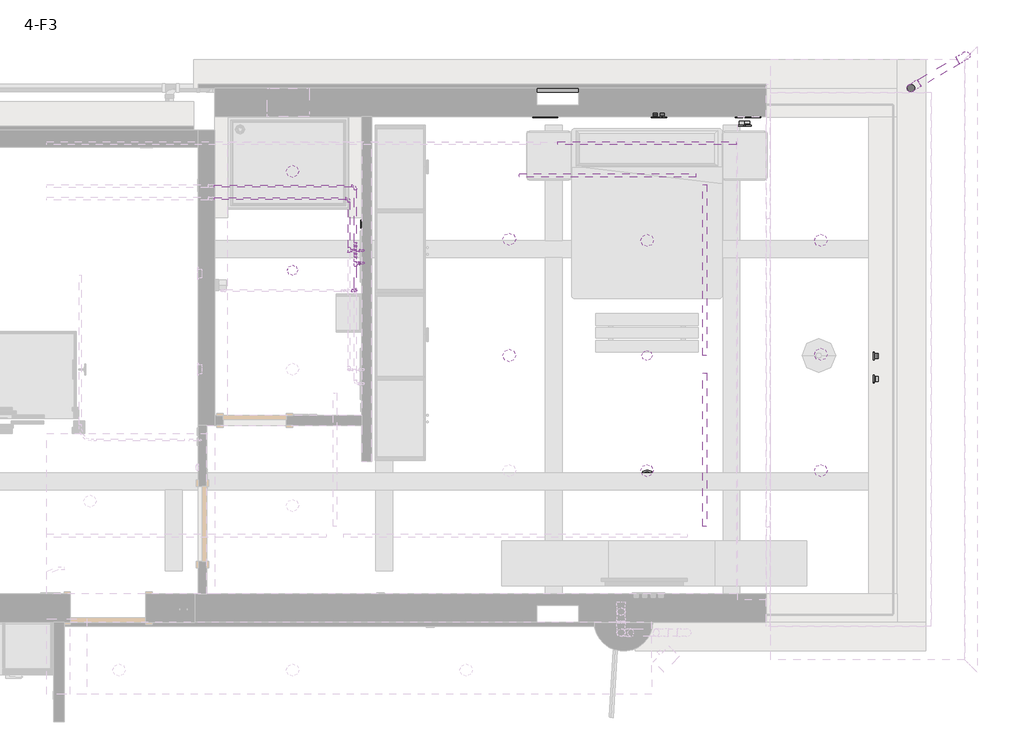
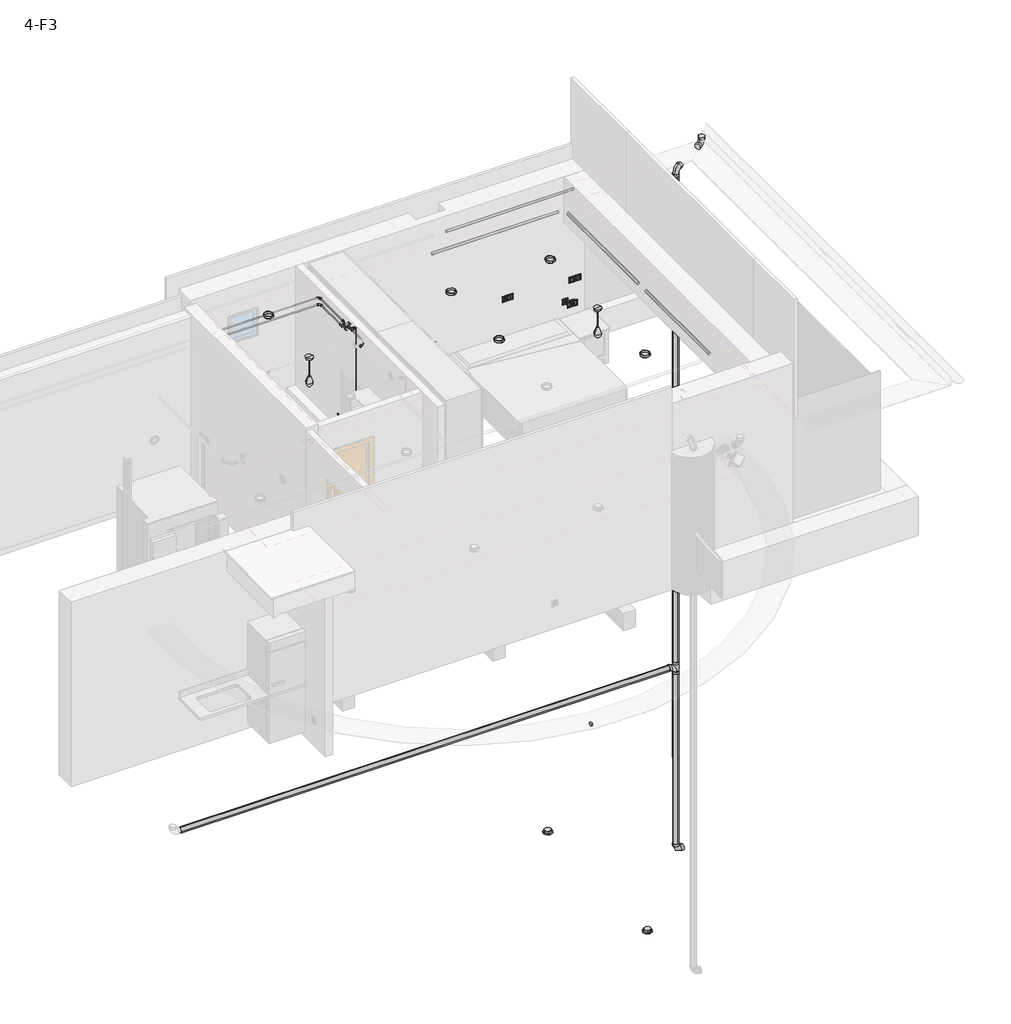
# One storey, part 11 of 11: 21 pipe segments, 20 pipe fittings, 12 light fixtures, 6 proxies, 5 electric appliances, 4 cable carrier segments, 4 switching devices.
"""IFC4 building model written with IfcOpenShell, lengths in millimetres."""

from ifc_helpers import new_model, si_unit, point, frame, frame_2d, origin, place, context, project, spatial, circle_curve, trimmed, segment, composite_curve, outline, extrude, transform, mapped, element, save
from components import wall_mounted_socket_ups_wall_mounted_socket_ups_4524048d, wall_mounted_data_socket_wall_mounted_data_socket_ap_474314e8, m_downlight_recessed_can_152mm_incandescent_120v_1ee42939, m_pendant_lamp_art_glass_led_standard_2036dae1, m_recessed_lamp_round_led_e6f06c98, m_recessed_lamp_round_led_ae0475c0, m_bend_pvc_sch_40_dwv_standard_738aab8b, m_bend_pvc_sch_40_dwv_standard_42e46e6b, m_bend_pvc_sch_40_dwv_standard_1be8e2f3, m_bend_pvc_sch_40_dwv_standard_0050fb47, m_bend_pvc_sch_40_dwv_standard_41353a0c, m_bend_pvc_sch_40_dwv_standard_6ee9e5fe, m_plug_pvc_sch_40_dwv_standard_f522da5e, m_tee_reducing_sanitary_pvc_sch_40_dwv_standard_53539b48, m_tee_reducing_sanitary_pvc_sch_40_dwv_standard_263bb960, m_tee_reducing_sanitary_pvc_sch_40_dwv_standard_152067bf, switching_device_8f59fbb7

model = new_model("IFC4")

# Units and contexts
model_context = context("Model", 3, world=origin())
ifc_project = project(units=[si_unit("LENGTHUNIT", "METRE", prefix="MILLI")], contexts=[model_context])

# Site, building, storey
site = spatial("IfcSite", under=ifc_project)
building = spatial("IfcBuilding", under=site)
storey = spatial("IfcBuildingStorey", under=building, Name="4-F3", Elevation=9900.0)

# Proxies
placement = place(None, origin())
wall_mounted_socket_ups_wall_mounted_socket_ups_shape = wall_mounted_socket_ups_wall_mounted_socket_ups_4524048d(model_context)
element("IfcBuildingElementProxy", 1, Name="WALL MOUNTED SOCKET UPS : WALL MOUNTED SOCKET UPS", ObjectType="WALL MOUNTED SOCKET UPS : WALL MOUNTED SOCKET UPS", at=placement, inside=storey, context=model_context, shape_type="MappedRepresentation", body=[
    mapped(wall_mounted_socket_ups_wall_mounted_socket_ups_shape, transform((3312.5234079, 8861.6620874, 10700.0), x_axis=(1.0, 0.0, 0.0), y_axis=(0.0, 0.0, 1.0), z_axis=(0.0, -1.0, 0.0))),
])
element("IfcBuildingElementProxy", 2, Name="WALL MOUNTED SOCKET UPS : WALL MOUNTED SOCKET UPS", ObjectType="WALL MOUNTED SOCKET UPS : WALL MOUNTED SOCKET UPS", at=placement, inside=storey, context=model_context, shape_type="MappedRepresentation", body=[
    mapped(wall_mounted_socket_ups_wall_mounted_socket_ups_shape, transform((5622.87749, 8861.6620874, 10700.0), x_axis=(1.0, 0.0, 0.0), y_axis=(0.0, 0.0, 1.0), z_axis=(0.0, -1.0, 0.0))),
])
element("IfcBuildingElementProxy", 3, Name="WALL MOUNTED SOCKET UPS : WALL MOUNTED SOCKET UPS", ObjectType="WALL MOUNTED SOCKET UPS : WALL MOUNTED SOCKET UPS", at=placement, inside=storey, context=model_context, shape_type="MappedRepresentation", body=[
    mapped(wall_mounted_socket_ups_wall_mounted_socket_ups_shape, transform((7235.5234079, 6006.4863231, 10350.0), x_axis=(0.0, -1.0, 0.0), y_axis=(0.0, 0.0, 1.0), z_axis=(-1.0, 0.0, 0.0))),
])
element("IfcBuildingElementProxy", 4, Name="WALL MOUNTED SOCKET UPS : WALL MOUNTED SOCKET UPS", ObjectType="WALL MOUNTED SOCKET UPS : WALL MOUNTED SOCKET UPS", at=placement, inside=storey, context=model_context, shape_type="MappedRepresentation", body=[
    mapped(wall_mounted_socket_ups_wall_mounted_socket_ups_shape, transform((4627.87749, 8861.6620874, 10350.0), x_axis=(1.0, 0.0, 0.0), y_axis=(0.0, 0.0, 1.0), z_axis=(0.0, -1.0, 0.0))),
])
element("IfcBuildingElementProxy", 5, Name="WALL MOUNTED SOCKET UPS : WALL MOUNTED SOCKET UPS", ObjectType="WALL MOUNTED SOCKET UPS : WALL MOUNTED SOCKET UPS", at=placement, inside=storey, context=model_context, shape_type="MappedRepresentation", body=[
    mapped(wall_mounted_socket_ups_wall_mounted_socket_ups_shape, transform((4622.5234079, 8861.6620874, 11100.0), x_axis=(1.0, 0.0, 0.0), y_axis=(0.0, 0.0, 1.0), z_axis=(0.0, -1.0, 0.0))),
])
element("IfcBuildingElementProxy", 6, Name="WALL MOUNTED SOCKET UPS : WALL MOUNTED SOCKET UPS", ObjectType="WALL MOUNTED SOCKET UPS : WALL MOUNTED SOCKET UPS", at=placement, inside=storey, context=model_context, shape_type="MappedRepresentation", body=[
    mapped(wall_mounted_socket_ups_wall_mounted_socket_ups_shape, transform((1122.5234079, 7582.5716599, 11002.6), x_axis=(0.0, -1.0, 0.0), y_axis=(0.0, 0.0, 1.0), z_axis=(-1.0, 0.0, 0.0))),
])

# Cable carrier segments
element("IfcCableCarrierSegment", 7, ObjectType="Low Current", at=placement, inside=storey, context=model_context, shape_type="SweptSolid", body=[
    extrude(outline(composite_curve([segment(trimmed(circle_curve(frame_2d((8549.2572999, 12880.825)), 19.175), [point((8568.4322999, 12880.825))], [point((8549.2572999, 12861.65))], False, "CARTESIAN"), True, "CONTINUOUS"), segment(trimmed(circle_curve(frame_2d((8549.2572999, 12880.825)), 19.175), [point((8549.2572999, 12861.65))], [point((8530.0822999, 12880.825))], False, "CARTESIAN"), True, "CONTINUOUS"), segment(trimmed(circle_curve(frame_2d((8549.2572999, 12880.825)), 19.175), [point((8530.0822999, 12880.825))], [point((8549.2572999, 12900.0))], False, "CARTESIAN"), True, "CONTINUOUS"), segment(trimmed(circle_curve(frame_2d((8549.2572999, 12880.825)), 19.175), [point((8549.2572999, 12900.0))], [point((8568.4322999, 12880.825))], False, "CARTESIAN"), True, "CONTINUOUS")], self_intersect=False)), frame((3462.7004489, 0.0, 0.0), z_axis=(1.0, 0.0, 0.0), x_axis=(0.0, 1.0, 0.0)), (0.0, 0.0, 1.0), 2125.0),
])
element("IfcCableCarrierSegment", 8, ObjectType="Power", at=placement, inside=storey, context=model_context, shape_type="SweptSolid", body=[
    extrude(outline(composite_curve([segment(trimmed(circle_curve(frame_2d((12880.825, 5214.42096)), 21.08), [point((12880.825, 5235.50096))], [point((12901.905, 5214.42096))], False, "CARTESIAN"), True, "CONTINUOUS"), segment(trimmed(circle_curve(frame_2d((12880.825, 5214.42096)), 21.08), [point((12901.905, 5214.42096))], [point((12880.825, 5193.34096))], False, "CARTESIAN"), True, "CONTINUOUS"), segment(trimmed(circle_curve(frame_2d((12880.825, 5214.42096)), 21.08), [point((12880.825, 5193.34096))], [point((12859.745, 5214.42096))], False, "CARTESIAN"), True, "CONTINUOUS"), segment(trimmed(circle_curve(frame_2d((12880.825, 5214.42096)), 21.08), [point((12859.745, 5214.42096))], [point((12880.825, 5235.50096))], False, "CARTESIAN"), True, "CONTINUOUS")], self_intersect=False)), frame((0.0, 6015.2234266, 0.0), z_axis=(0.0, 1.0, 0.0), x_axis=(0.0, 0.0, 1.0)), (0.0, 0.0, 1.0), 2040.9089166),
])
element("IfcCableCarrierSegment", 9, ObjectType="Power", at=placement, inside=storey, context=model_context, shape_type="SweptSolid", body=[
    extrude(outline(composite_curve([segment(trimmed(circle_curve(frame_2d((12880.825, 5214.42096)), 21.08), [point((12880.825, 5193.34096))], [point((12859.745, 5214.42096))], False, "CARTESIAN"), True, "CONTINUOUS"), segment(trimmed(circle_curve(frame_2d((12880.825, 5214.42096)), 21.08), [point((12859.745, 5214.42096))], [point((12880.825, 5235.50096))], False, "CARTESIAN"), True, "CONTINUOUS"), segment(trimmed(circle_curve(frame_2d((12880.825, 5214.42096)), 21.08), [point((12880.825, 5235.50096))], [point((12901.905, 5214.42096))], False, "CARTESIAN"), True, "CONTINUOUS"), segment(trimmed(circle_curve(frame_2d((12880.825, 5214.42096)), 21.08), [point((12901.905, 5214.42096))], [point((12880.825, 5193.34096))], False, "CARTESIAN"), True, "CONTINUOUS")], self_intersect=False)), frame((0.0, 3971.4863231, 0.0), z_axis=(0.0, 1.0, 0.0), x_axis=(0.0, 0.0, 1.0)), (0.0, 0.0, 1.0), 1833.7371035),
])
element("IfcCableCarrierSegment", 10, ObjectType="Power", at=placement, inside=storey, context=model_context, shape_type="SweptSolid", body=[
    extrude(outline(composite_curve([segment(trimmed(circle_curve(frame_2d((8161.1323432, 12880.825)), 21.08), [point((8140.0523432, 12880.825))], [point((8161.1323432, 12901.905))], False, "CARTESIAN"), True, "CONTINUOUS"), segment(trimmed(circle_curve(frame_2d((8161.1323432, 12880.825)), 21.08), [point((8161.1323432, 12901.905))], [point((8182.2123432, 12880.825))], False, "CARTESIAN"), True, "CONTINUOUS"), segment(trimmed(circle_curve(frame_2d((8161.1323432, 12880.825)), 21.08), [point((8182.2123432, 12880.825))], [point((8161.1323432, 12859.745))], False, "CARTESIAN"), True, "CONTINUOUS"), segment(trimmed(circle_curve(frame_2d((8161.1323432, 12880.825)), 21.08), [point((8161.1323432, 12859.745))], [point((8140.0523432, 12880.825))], False, "CARTESIAN"), True, "CONTINUOUS")], self_intersect=False)), frame((3001.3088898, 0.0, 0.0), z_axis=(1.0, 0.0, 0.0), x_axis=(0.0, 1.0, 0.0)), (0.0, 0.0, 1.0), 2108.1120702),
])

# Electric appliances
wall_mounted_data_socket_wall_mounted_data_socket_ap_shape = wall_mounted_data_socket_wall_mounted_data_socket_ap_474314e8(model_context)
element("IfcElectricAppliance", 11, ObjectType="WALL MOUNTED DATA SOCKET : WALL MOUNTED DATA SOCKET AP", at=placement, inside=storey, context=model_context, shape_type="MappedRepresentation", body=[
    mapped(wall_mounted_data_socket_wall_mounted_data_socket_ap_shape, transform((7235.5234079, 5734.4560655, 10350.0), x_axis=(0.0, -1.0, 0.0), y_axis=(0.0, 0.0, 1.0), z_axis=(-1.0, 0.0, 0.0))),
])
element("IfcElectricAppliance", 12, ObjectType="WALL MOUNTED DATA SOCKET : WALL MOUNTED DATA SOCKET AP", at=placement, inside=storey, context=model_context, shape_type="MappedRepresentation", body=[
    mapped(wall_mounted_data_socket_wall_mounted_data_socket_ap_shape, transform((5722.87749, 8761.6620874, 10700.0), x_axis=(1.0, 0.0, 0.0), y_axis=(0.0, 0.0, 1.0), z_axis=(0.0, -1.0, 0.0))),
])
element("IfcElectricAppliance", 13, ObjectType="WALL MOUNTED DATA SOCKET : WALL MOUNTED DATA SOCKET AP", at=placement, inside=storey, context=model_context, shape_type="MappedRepresentation", body=[
    mapped(wall_mounted_data_socket_wall_mounted_data_socket_ap_shape, transform((3212.5234079, 8861.6620874, 10700.0), x_axis=(1.0, 0.0, 0.0), y_axis=(0.0, 0.0, 1.0), z_axis=(0.0, -1.0, 0.0))),
])
element("IfcElectricAppliance", 14, ObjectType="WALL MOUNTED DATA SOCKET : WALL MOUNTED DATA SOCKET AP", at=placement, inside=storey, context=model_context, shape_type="MappedRepresentation", body=[
    mapped(wall_mounted_data_socket_wall_mounted_data_socket_ap_shape, transform((4707.87749, 8861.6620874, 11100.0), x_axis=(1.0, 0.0, 0.0), y_axis=(0.0, 0.0, 1.0), z_axis=(0.0, -1.0, 0.0))),
])
element("IfcElectricAppliance", 15, ObjectType="WALL MOUNTED DATA SOCKET : WALL MOUNTED DATA SOCKET AP", at=placement, inside=storey, context=model_context, shape_type="MappedRepresentation", body=[
    mapped(wall_mounted_data_socket_wall_mounted_data_socket_ap_shape, transform((4712.87749, 8861.6620874, 10350.0), x_axis=(1.0, 0.0, 0.0), y_axis=(0.0, 0.0, 1.0), z_axis=(0.0, -1.0, 0.0))),
])

# Light fixtures
m_downlight_recessed_can_152mm_incandescent_120v_shape = m_downlight_recessed_can_152mm_incandescent_120v_1ee42939(model_context)
element("IfcLightFixture", 16, ObjectType="M_Downlight - Recessed Can : 203mm Incandescent - 277V", at=placement, inside=storey, context=model_context, shape_type="MappedRepresentation", body=[
    mapped(m_downlight_recessed_can_152mm_incandescent_120v_shape, transform((6599.2004488, 7387.4708382, 9685.4), x_axis=(1.0, 0.0, 0.0), y_axis=(0.0, 1.0, 0.0), z_axis=(0.0, 0.0, 1.0))),
])
element("IfcLightFixture", 17, ObjectType="M_Downlight - Recessed Can : 203mm Incandescent - 277V", at=placement, inside=storey, context=model_context, shape_type="MappedRepresentation", body=[
    mapped(m_downlight_recessed_can_152mm_incandescent_120v_shape, transform((6599.2004488, 4639.8354313, 9685.4), x_axis=(1.0, 0.0, 0.0), y_axis=(0.0, 1.0, 0.0), z_axis=(0.0, 0.0, 1.0))),
])
element("IfcLightFixture", 18, ObjectType="M_Downlight - Recessed Can : 203mm Incandescent - 277V", at=placement, inside=storey, context=model_context, shape_type="MappedRepresentation", body=[
    mapped(m_downlight_recessed_can_152mm_incandescent_120v_shape, transform((6599.2004488, 6027.4708382, 9685.4), x_axis=(1.0, 0.0, 0.0), y_axis=(0.0, 1.0, 0.0), z_axis=(0.0, 0.0, 1.0))),
])
element("IfcLightFixture", 19, ObjectType="M_Downlight - Recessed Can : 203mm Incandescent - 277V", at=placement, inside=storey, context=model_context, shape_type="MappedRepresentation", body=[
    mapped(m_downlight_recessed_can_152mm_incandescent_120v_shape, transform((297.5234079, 8211.6620874, 10185.4), x_axis=(1.0, 0.0, 0.0), y_axis=(0.0, 1.0, 0.0), z_axis=(0.0, 0.0, 1.0))),
])
element("IfcLightFixture", 20, ObjectType="M_Downlight - Recessed Can : 203mm Incandescent - 277V", at=placement, inside=storey, context=model_context, shape_type="MappedRepresentation", body=[
    mapped(m_downlight_recessed_can_152mm_incandescent_120v_shape, transform((2882.5234079, 7401.6620874, 10185.4), x_axis=(1.0, 0.0, 0.0), y_axis=(0.0, 1.0, 0.0), z_axis=(0.0, 0.0, 1.0))),
])
element("IfcLightFixture", 21, ObjectType="M_Downlight - Recessed Can : 203mm Incandescent - 277V", at=placement, inside=storey, context=model_context, shape_type="MappedRepresentation", body=[
    mapped(m_downlight_recessed_can_152mm_incandescent_120v_shape, transform((4527.8774898, 7387.4708382, 10185.4), x_axis=(1.0, 0.0, 0.0), y_axis=(0.0, 1.0, 0.0), z_axis=(0.0, 0.0, 1.0))),
])
element("IfcLightFixture", 22, ObjectType="M_Downlight - Recessed Can : 203mm Incandescent - 277V", at=placement, inside=storey, context=model_context, shape_type="MappedRepresentation", body=[
    mapped(m_downlight_recessed_can_152mm_incandescent_120v_shape, transform((2882.5234079, 6013.8093331, 10185.4), x_axis=(1.0, 0.0, 0.0), y_axis=(0.0, 1.0, 0.0), z_axis=(0.0, 0.0, 1.0))),
])
element("IfcLightFixture", 23, ObjectType="M_Downlight - Recessed Can : 203mm Incandescent - 277V", at=placement, inside=storey, context=model_context, shape_type="MappedRepresentation", body=[
    mapped(m_downlight_recessed_can_152mm_incandescent_120v_shape, transform((4525.2004489, 4640.1478281, 10185.4), x_axis=(1.0, 0.0, 0.0), y_axis=(0.0, 1.0, 0.0), z_axis=(0.0, 0.0, 1.0))),
])
m_pendant_lamp_art_glass_led_standard_shape = m_pendant_lamp_art_glass_led_standard_2036dae1(model_context)
element("IfcLightFixture", 24, ObjectType="M_Pendant Lamp - Art Glass - LED : Standard", at=placement, inside=storey, context=model_context, shape_type="MappedRepresentation", body=[
    mapped(m_pendant_lamp_art_glass_led_standard_shape, transform((4526.1133899, 6013.8093331, 12700.0), x_axis=(1.0, 0.0, 0.0), y_axis=(0.0, -1.0, 0.0), z_axis=(0.0, 0.0, -1.0))),
])
element("IfcLightFixture", 25, ObjectType="M_Pendant Lamp - Art Glass - LED : Standard", at=placement, inside=storey, context=model_context, shape_type="MappedRepresentation", body=[
    mapped(m_pendant_lamp_art_glass_led_standard_shape, transform((298.4363488, 7030.7487593, 12700.0), x_axis=(1.0, 0.0, 0.0), y_axis=(0.0, -1.0, 0.0), z_axis=(0.0, 0.0, -1.0))),
])
m_recessed_lamp_round_led_shape = m_recessed_lamp_round_led_e6f06c98(model_context)
element("IfcLightFixture", 26, ObjectType="M_Recessed Lamp - Round - LED : 100mm Trimless Downlight", at=placement, inside=storey, context=model_context, shape_type="MappedRepresentation", body=[
    mapped(m_recessed_lamp_round_led_shape, transform((4528.1894212, 7459.6229895, 2573.0), x_axis=(1.0, 0.0, 0.0), y_axis=(0.0, -1.0, 0.0), z_axis=(0.0, 0.0, -1.0))),
])
m_recessed_lamp_round_led_2_shape = m_recessed_lamp_round_led_ae0475c0(model_context)
element("IfcLightFixture", 27, ObjectType="M_Recessed Lamp - Round - LED : 100mm Trimless Downlight", at=placement, inside=storey, context=model_context, shape_type="MappedRepresentation", body=[
    mapped(m_recessed_lamp_round_led_2_shape, transform((4528.1894212, 4577.445533, 2573.0), x_axis=(1.0, 0.0, 0.0), y_axis=(0.0, -1.0, 0.0), z_axis=(0.0, 0.0, -1.0))),
])

# Pipe fittings
m_bend_pvc_sch_40_dwv_standard_shape = m_bend_pvc_sch_40_dwv_standard_738aab8b(model_context)
element("IfcPipeFitting", 28, ObjectType="M_Bend - PVC - Sch 40 - DWV : Standard", at=placement, inside=storey, context=model_context, shape_type="MappedRepresentation", body=[
    mapped(m_bend_pvc_sch_40_dwv_standard_shape, transform((1182.5234079, 8931.6620874, 10050.0), x_axis=(0.0, 1.0, 0.0), y_axis=(-1.0, 0.0, 0.0), z_axis=(0.0, 0.0, 1.0))),
])
element("IfcPipeFitting", 29, ObjectType="M_Bend - PVC - Sch 40 - DWV : Standard", at=placement, inside=storey, context=model_context, shape_type="MappedRepresentation", body=[
    mapped(m_bend_pvc_sch_40_dwv_standard_shape, transform((1182.5234079, 7183.2487593, 10651.5), x_axis=(0.0, 0.0, 1.0), y_axis=(-1.0, 0.0, 0.0), z_axis=(0.0, -1.0, 0.0))),
])
m_bend_pvc_sch_40_dwv_standard_2_shape = m_bend_pvc_sch_40_dwv_standard_42e46e6b(model_context)
element("IfcPipeFitting", 30, ObjectType="M_Bend - PVC - Sch 40 - DWV : Standard", at=placement, inside=storey, context=model_context, shape_type="MappedRepresentation", body=[
    mapped(m_bend_pvc_sch_40_dwv_standard_2_shape, transform((972.5234079, 7886.6620874, 12870.0), x_axis=(0.0, 1.0, 0.0), y_axis=(-1.0, 0.0, 0.0), z_axis=(0.0, 0.0, 1.0))),
])
element("IfcPipeFitting", 31, ObjectType="M_Bend - PVC - Sch 40 - DWV : Standard", at=placement, inside=storey, context=model_context, shape_type="MappedRepresentation", body=[
    mapped(m_bend_pvc_sch_40_dwv_standard_2_shape, transform((1135.0234079, 7265.7487593, 12870.0), x_axis=(1.0, 0.0, 0.0), y_axis=(0.0, 0.0, -1.0), z_axis=(0.0, 1.0, 0.0))),
])
element("IfcPipeFitting", 32, ObjectType="M_Bend - PVC - Sch 40 - DWV : Standard", at=placement, inside=storey, context=model_context, shape_type="MappedRepresentation", body=[
    mapped(m_bend_pvc_sch_40_dwv_standard_2_shape, transform((1047.5234079, 8036.6620874, 12870.0), x_axis=(0.0, 1.0, 0.0), y_axis=(-1.0, 0.0, 0.0), z_axis=(0.0, 0.0, 1.0))),
])
element("IfcPipeFitting", 33, ObjectType="M_Bend - PVC - Sch 40 - DWV : Standard", at=placement, inside=storey, context=model_context, shape_type="MappedRepresentation", body=[
    mapped(m_bend_pvc_sch_40_dwv_standard_2_shape, transform((1137.5234079, 7115.7487593, 10350.0), x_axis=(0.0, 0.0, -1.0), y_axis=(-1.0, 0.0, 0.0), z_axis=(0.0, 1.0, 0.0))),
])
element("IfcPipeFitting", 34, ObjectType="M_Bend - PVC - Sch 40 - DWV : Standard", at=placement, inside=storey, context=model_context, shape_type="MappedRepresentation", body=[
    mapped(m_bend_pvc_sch_40_dwv_standard_2_shape, transform((1047.5234079, 7320.1761499, 12870.0), x_axis=(0.0, -1.0, 0.0), y_axis=(0.0, 0.0, -1.0), z_axis=(1.0, 0.0, 0.0))),
])
element("IfcPipeFitting", 35, ObjectType="M_Bend - PVC - Sch 40 - DWV : Standard", at=placement, inside=storey, context=model_context, shape_type="MappedRepresentation", body=[
    mapped(m_bend_pvc_sch_40_dwv_standard_2_shape, transform((1047.5234079, 7320.1761499, 12780.0), x_axis=(0.0, 0.0, -1.0), y_axis=(0.0, -1.0, 0.0), z_axis=(-1.0, 0.0, 0.0))),
])
element("IfcPipeFitting", 36, ObjectType="M_Bend - PVC - Sch 40 - DWV : Standard", at=placement, inside=storey, context=model_context, shape_type="MappedRepresentation", body=[
    mapped(m_bend_pvc_sch_40_dwv_standard_2_shape, transform((1047.5234079, 7227.6761499, 12780.0), x_axis=(0.0, -1.0, 0.0), y_axis=(0.0, 0.0, 1.0), z_axis=(-1.0, 0.0, 0.0))),
])
element("IfcPipeFitting", 37, ObjectType="M_Bend - PVC - Sch 40 - DWV : Standard", at=placement, inside=storey, context=model_context, shape_type="MappedRepresentation", body=[
    mapped(m_bend_pvc_sch_40_dwv_standard_2_shape, transform((1047.5234079, 7227.6761499, 12870.0), x_axis=(0.0, 0.0, 1.0), y_axis=(0.0, -1.0, 0.0), z_axis=(1.0, 0.0, 0.0))),
])
element("IfcPipeFitting", 38, ObjectType="M_Bend - PVC - Sch 40 - DWV : Standard", at=placement, inside=storey, context=model_context, shape_type="MappedRepresentation", body=[
    mapped(m_bend_pvc_sch_40_dwv_standard_2_shape, transform((1047.5234079, 6788.3845932, 12780.0), x_axis=(0.0, 0.0, -1.0), y_axis=(-1.0, 0.0, 0.0), z_axis=(0.0, 1.0, 0.0))),
])
m_bend_pvc_sch_40_dwv_standard_3_shape = m_bend_pvc_sch_40_dwv_standard_1be8e2f3(model_context)
element("IfcPipeFitting", 39, ObjectType="M_Bend - PVC - Sch 40 - DWV : Standard", at=placement, inside=storey, context=model_context, shape_type="MappedRepresentation", body=[
    mapped(m_bend_pvc_sch_40_dwv_standard_3_shape, transform((7673.7257941, 9205.2307147, 12114.1007258), x_axis=(-1.4652502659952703e-05, -1.465250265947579e-05, 0.9999999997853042), y_axis=(0.8608481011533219, 0.5088620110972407, 2.0069681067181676e-05), z_axis=(-0.5088620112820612, 0.8608481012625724, 5.157477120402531e-06))),
])
m_bend_pvc_sch_40_dwv_standard_4_shape = m_bend_pvc_sch_40_dwv_standard_0050fb47(model_context)
element("IfcPipeFitting", 40, ObjectType="M_Bend - PVC - Sch 40 - DWV : Standard", at=placement, inside=storey, context=model_context, shape_type="MappedRepresentation", body=[
    mapped(m_bend_pvc_sch_40_dwv_standard_4_shape, transform((8330.5819101, 9593.5103025, 12114.1003369), x_axis=(0.8608476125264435, 0.508862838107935, -5.097531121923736e-07), y_axis=(4.3881974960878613e-07, 2.5939441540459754e-07, 0.9999999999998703), z_axis=(0.5088628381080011, -0.8608476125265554, 0.0))),
])
m_bend_pvc_sch_40_dwv_standard_5_shape = m_bend_pvc_sch_40_dwv_standard_41353a0c(model_context)
element("IfcPipeFitting", 41, ObjectType="M_Bend - PVC - Sch 40 - DWV : Standard", at=placement, inside=storey, context=model_context, shape_type="MappedRepresentation", body=[
    mapped(m_bend_pvc_sch_40_dwv_standard_5_shape, transform((7673.9018307, 9205.4067513, 100.0005114), x_axis=(1.4652502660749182e-05, 1.4652502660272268e-05, -0.9999999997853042), y_axis=(0.9953425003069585, 0.09640179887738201, 1.5996786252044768e-05), z_axis=(0.0964017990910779, -0.9953425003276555, -1.3171731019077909e-05))),
])
m_bend_pvc_sch_40_dwv_standard_6_shape = m_bend_pvc_sch_40_dwv_standard_6ee9e5fe(model_context)
element("IfcPipeFitting", 42, ObjectType="M_Bend - PVC - Sch 40 - DWV : Standard", at=placement, inside=storey, context=model_context, shape_type="MappedRepresentation", body=[
    mapped(m_bend_pvc_sch_40_dwv_standard_6_shape, transform((1137.5234079, 7115.7487593, 12870.0013214), x_axis=(0.0, 0.0, 1.0), y_axis=(-1.0, 0.0, 0.0), z_axis=(0.0, -1.0, 0.0))),
])
m_plug_pvc_sch_40_dwv_standard_shape = m_plug_pvc_sch_40_dwv_standard_f522da5e(model_context)
element("IfcPipeFitting", 43, ObjectType="M_Plug - PVC - Sch 40 - DWV : Standard", at=placement, inside=storey, context=model_context, shape_type="MappedRepresentation", body=[
    mapped(m_plug_pvc_sch_40_dwv_standard_shape, transform((6253.1565793, 9222.0326065, 2800.0), x_axis=(1.0, 0.0, 0.0), y_axis=(0.0, 0.0, 1.0), z_axis=(0.0, -1.0, 0.0))),
])
m_tee_reducing_sanitary_pvc_sch_40_dwv_standard_shape = m_tee_reducing_sanitary_pvc_sch_40_dwv_standard_53539b48(model_context)
element("IfcPipeFitting", 44, ObjectType="M_Tee Reducing Sanitary - PVC - Sch 40 - DWV : Standard", at=placement, inside=storey, context=model_context, shape_type="MappedRepresentation", body=[
    mapped(m_tee_reducing_sanitary_pvc_sch_40_dwv_standard_shape, transform((1047.5234079, 7115.7487593, 12870.0), x_axis=(0.0, 1.0, 0.0), y_axis=(-0.9999999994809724, 0.0, -3.2218865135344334e-05), z_axis=(-3.2218865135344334e-05, 0.0, 0.9999999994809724))),
])
element("IfcPipeFitting", 45, ObjectType="M_Tee Reducing Sanitary - PVC - Sch 40 - DWV : Standard", at=placement, inside=storey, context=model_context, shape_type="MappedRepresentation", body=[
    mapped(m_tee_reducing_sanitary_pvc_sch_40_dwv_standard_shape, transform((972.5234079, 7265.7487593, 12870.0), x_axis=(0.0, -1.0, 0.0), y_axis=(-1.0, 0.0, 0.0), z_axis=(0.0, 0.0, -1.0))),
])
m_tee_reducing_sanitary_pvc_sch_40_dwv_standard_2_shape = m_tee_reducing_sanitary_pvc_sch_40_dwv_standard_263bb960(model_context)
element("IfcPipeFitting", 46, ObjectType="M_Tee Reducing Sanitary - PVC - Sch 40 - DWV : Standard", at=placement, inside=storey, context=model_context, shape_type="MappedRepresentation", body=[
    mapped(m_tee_reducing_sanitary_pvc_sch_40_dwv_standard_2_shape, transform((7673.862269, 9205.3671896, 3340.0), x_axis=(-1.4652502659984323e-05, -1.4652502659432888e-05, 0.9999999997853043), y_axis=(0.999999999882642, -4.474654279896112e-06, 1.4652437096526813e-05), z_axis=(4.474439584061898e-06, 0.9999999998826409, 1.4652568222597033e-05))),
])
m_tee_reducing_sanitary_pvc_sch_40_dwv_standard_3_shape = m_tee_reducing_sanitary_pvc_sch_40_dwv_standard_152067bf(model_context)
element("IfcPipeFitting", 47, ObjectType="M_Tee Reducing Sanitary - PVC - Sch 40 - DWV : Standard", at=placement, inside=storey, context=model_context, shape_type="MappedRepresentation", body=[
    mapped(m_tee_reducing_sanitary_pvc_sch_40_dwv_standard_3_shape, transform((1182.5234079, 7183.2487593, 10050.0), x_axis=(0.0, -1.0, 0.0), y_axis=(0.0, 0.0, -1.0), z_axis=(1.0, 0.0, 0.0))),
])

# Pipe segments
element("IfcPipeSegment", 48, ObjectType="PVC - DWV", at=placement, inside=storey, context=model_context, shape_type="SweptSolid", body=[
    extrude(outline(composite_curve([segment(trimmed(circle_curve(frame_2d((0.0, 44.45)), 44.45), [point((44.45, 44.45))], [point((0.0, 0.0))], False, "CARTESIAN"), True, "CONTINUOUS"), segment(trimmed(circle_curve(frame_2d((0.0, 44.45)), 44.45), [point((0.0, 0.0))], [point((-44.45, 44.45))], False, "CARTESIAN"), True, "CONTINUOUS"), segment(trimmed(circle_curve(frame_2d((0.0, 44.45)), 44.45), [point((-44.45, 44.45))], [point((0.0, 88.9))], False, "CARTESIAN"), True, "CONTINUOUS"), segment(trimmed(circle_curve(frame_2d((0.0, 44.45)), 44.45), [point((0.0, 88.9))], [point((44.45, 44.45))], False, "CARTESIAN"), True, "CONTINUOUS")], self_intersect=False)), frame((7773.4982612, 9264.2079236, 12158.5506667), z_axis=(0.8608476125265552, 0.5088628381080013, 0.0), x_axis=(0.5088628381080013, -0.8608476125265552, 0.0)), (0.0, 0.0, 1.0), 531.2336723),
])
element("IfcPipeSegment", 49, ObjectType="PVC - DWV", at=placement, inside=storey, context=model_context, shape_type="SweptSolid", body=[
    extrude(outline(composite_curve([segment(trimmed(circle_curve(frame_2d((0.0, 44.45)), 44.45), [point((-44.45, 44.45))], [point((-1e-07, 88.9))], False, "CARTESIAN"), True, "CONTINUOUS"), segment(trimmed(circle_curve(frame_2d((0.0, 44.45)), 44.45), [point((-1e-07, 88.9))], [point((44.4499999, 44.45))], False, "CARTESIAN"), True, "CONTINUOUS"), segment(trimmed(circle_curve(frame_2d((0.0, 44.45)), 44.45), [point((44.4499999, 44.45))], [point((0.0, 0.0))], False, "CARTESIAN"), True, "CONTINUOUS"), segment(trimmed(circle_curve(frame_2d((0.0, 44.45)), 44.45), [point((0.0, 0.0))], [point((-44.45, 44.45))], False, "CARTESIAN"), True, "CONTINUOUS")], self_intersect=False)), frame((7673.8609742, 9160.9158948, 3428.3670937), z_axis=(-1.5575782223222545e-05, -1.557578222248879e-05, 0.9999999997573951), x_axis=(0.9999999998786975, -2.426041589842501e-10, 1.5575782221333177e-05)), (0.0, 0.0, 1.0), 8569.8327419),
])
element("IfcPipeSegment", 50, ObjectType="PVC - DWV", at=placement, inside=storey, context=model_context, shape_type="SweptSolid", body=[
    extrude(outline(composite_curve([segment(trimmed(circle_curve(frame_2d((0.0, -44.45)), 44.45), [point((-44.45, -44.45))], [point((0.0, 0.0))], False, "CARTESIAN"), True, "CONTINUOUS"), segment(trimmed(circle_curve(frame_2d((0.0, -44.45)), 44.45), [point((0.0, 0.0))], [point((44.45, -44.45))], False, "CARTESIAN"), True, "CONTINUOUS"), segment(trimmed(circle_curve(frame_2d((0.0, -44.45)), 44.45), [point((44.45, -44.45))], [point((0.0, -88.9))], False, "CARTESIAN"), True, "CONTINUOUS"), segment(trimmed(circle_curve(frame_2d((0.0, -44.45)), 44.45), [point((0.0, -88.9))], [point((-44.45, -44.45))], False, "CARTESIAN"), True, "CONTINUOUS")], self_intersect=False)), frame((7554.8146127, 9205.3677222, 3295.55), z_axis=(-0.9999999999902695, 4.411492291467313e-06, 0.0), x_axis=(4.411492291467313e-06, 0.9999999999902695, 0.0)), (0.0, 0.0, 1.0), 8169.2350452),
])
element("IfcPipeSegment", 51, ObjectType="PVC - DWV", at=placement, inside=storey, context=model_context, shape_type="SweptSolid", body=[
    extrude(outline(composite_curve([segment(trimmed(circle_curve(frame_2d((8036.6620874, 12870.0)), 10.668), [point((8025.9940874, 12870.0))], [point((8036.6620874, 12880.668))], False, "CARTESIAN"), True, "CONTINUOUS"), segment(trimmed(circle_curve(frame_2d((8036.6620874, 12870.0)), 10.668), [point((8036.6620874, 12880.668))], [point((8047.3300874, 12870.0))], False, "CARTESIAN"), True, "CONTINUOUS"), segment(trimmed(circle_curve(frame_2d((8036.6620874, 12870.0)), 10.668), [point((8047.3300874, 12870.0))], [point((8036.6620874, 12859.332))], False, "CARTESIAN"), True, "CONTINUOUS"), segment(trimmed(circle_curve(frame_2d((8036.6620874, 12870.0)), 10.668), [point((8036.6620874, 12859.332))], [point((8025.9940874, 12870.0))], False, "CARTESIAN"), True, "CONTINUOUS")], self_intersect=False)), frame((-636.1046546, 0.0, 0.0), z_axis=(1.0, 0.0, 0.0), x_axis=(0.0, 1.0, 0.0)), (0.0, 0.0, 1.0), 1642.614),
])
element("IfcPipeSegment", 52, ObjectType="PVC - DWV", at=placement, inside=storey, context=model_context, shape_type="SweptSolid", body=[
    extrude(outline(composite_curve([segment(trimmed(circle_curve(frame_2d((7886.6620874, 12870.0)), 10.668), [point((7875.9940874, 12870.0))], [point((7886.6620874, 12880.668))], False, "CARTESIAN"), True, "CONTINUOUS"), segment(trimmed(circle_curve(frame_2d((7886.6620874, 12870.0)), 10.668), [point((7886.6620874, 12880.668))], [point((7897.3300874, 12870.0))], False, "CARTESIAN"), True, "CONTINUOUS"), segment(trimmed(circle_curve(frame_2d((7886.6620874, 12870.0)), 10.668), [point((7897.3300874, 12870.0))], [point((7886.6620874, 12859.332))], False, "CARTESIAN"), True, "CONTINUOUS"), segment(trimmed(circle_curve(frame_2d((7886.6620874, 12870.0)), 10.668), [point((7886.6620874, 12859.332))], [point((7875.9940874, 12870.0))], False, "CARTESIAN"), True, "CONTINUOUS")], self_intersect=False)), frame((-636.1046546, 0.0, 0.0), z_axis=(1.0, 0.0, 0.0), x_axis=(0.0, 1.0, 0.0)), (0.0, 0.0, 1.0), 1567.614),
])
element("IfcPipeSegment", 53, ObjectType="PVC - DWV", at=placement, inside=storey, context=model_context, shape_type="SweptSolid", body=[
    extrude(outline(composite_curve([segment(trimmed(circle_curve(frame_2d((12870.0, 972.5234079)), 10.668), [point((12870.0, 961.8554079))], [point((12859.332, 972.5234079))], False, "CARTESIAN"), True, "CONTINUOUS"), segment(trimmed(circle_curve(frame_2d((12870.0, 972.5234079)), 10.668), [point((12859.332, 972.5234079))], [point((12870.0, 983.1914079))], False, "CARTESIAN"), True, "CONTINUOUS"), segment(trimmed(circle_curve(frame_2d((12870.0, 972.5234079)), 10.668), [point((12870.0, 983.1914079))], [point((12880.668, 972.5234079))], False, "CARTESIAN"), True, "CONTINUOUS"), segment(trimmed(circle_curve(frame_2d((12870.0, 972.5234079)), 10.668), [point((12880.668, 972.5234079))], [point((12870.0, 961.8554079))], False, "CARTESIAN"), True, "CONTINUOUS")], self_intersect=False)), frame((0.0, 7300.6088781, 0.0), z_axis=(0.0, 1.0, 0.0), x_axis=(0.0, 0.0, 1.0)), (0.0, 0.0, 1.0), 545.0391468),
])
element("IfcPipeSegment", 54, ObjectType="PVC - DWV", at=placement, inside=storey, context=model_context, shape_type="SweptSolid", body=[
    extrude(outline(composite_curve([segment(trimmed(circle_curve(frame_2d((7265.7487593, 12870.0)), 10.668), [point((7255.0807593, 12870.0))], [point((7265.7487593, 12880.668))], False, "CARTESIAN"), True, "CONTINUOUS"), segment(trimmed(circle_curve(frame_2d((7265.7487593, 12870.0)), 10.668), [point((7265.7487593, 12880.668))], [point((7276.4167593, 12870.0))], False, "CARTESIAN"), True, "CONTINUOUS"), segment(trimmed(circle_curve(frame_2d((7265.7487593, 12870.0)), 10.668), [point((7276.4167593, 12870.0))], [point((7265.7487593, 12859.332))], False, "CARTESIAN"), True, "CONTINUOUS"), segment(trimmed(circle_curve(frame_2d((7265.7487593, 12870.0)), 10.668), [point((7265.7487593, 12859.332))], [point((7255.0807593, 12870.0))], False, "CARTESIAN"), True, "CONTINUOUS")], self_intersect=False)), frame((1008.4913766, 0.0, 0.0), z_axis=(1.0, 0.0, 0.0), x_axis=(0.0, 1.0, 0.0)), (0.0, 0.0, 1.0), 85.5179687),
])
element("IfcPipeSegment", 55, ObjectType="PVC - DWV", at=placement, inside=storey, context=model_context, shape_type="SweptSolid", body=[
    extrude(outline(composite_curve([segment(trimmed(circle_curve(frame_2d((1135.0234079, 7265.7487593)), 10.668), [point((1124.3554079, 7265.7487593))], [point((1135.0234079, 7276.4167593))], False, "CARTESIAN"), True, "CONTINUOUS"), segment(trimmed(circle_curve(frame_2d((1135.0234079, 7265.7487593)), 10.668), [point((1135.0234079, 7276.4167593))], [point((1145.6914079, 7265.7487593))], False, "CARTESIAN"), True, "CONTINUOUS"), segment(trimmed(circle_curve(frame_2d((1135.0234079, 7265.7487593)), 10.668), [point((1145.6914079, 7265.7487593))], [point((1135.0234079, 7255.0807593))], False, "CARTESIAN"), True, "CONTINUOUS"), segment(trimmed(circle_curve(frame_2d((1135.0234079, 7265.7487593)), 10.668), [point((1135.0234079, 7255.0807593))], [point((1124.3554079, 7265.7487593))], False, "CARTESIAN"), True, "CONTINUOUS")], self_intersect=False)), frame((0.0, 0.0, 10350.0), z_axis=(0.0, 0.0, 1.0), x_axis=(1.0, 0.0, 0.0)), (0.0, 0.0, 1.0), 2478.9859375),
])
element("IfcPipeSegment", 56, ObjectType="PVC - DWV", at=placement, inside=storey, context=model_context, shape_type="SweptSolid", body=[
    extrude(outline(composite_curve([segment(trimmed(circle_curve(frame_2d((12870.0, 1047.5234079)), 10.668), [point((12870.0, 1036.8554079))], [point((12859.332, 1047.5234079))], False, "CARTESIAN"), True, "CONTINUOUS"), segment(trimmed(circle_curve(frame_2d((12870.0, 1047.5234079)), 10.668), [point((12859.332, 1047.5234079))], [point((12870.0, 1058.1914079))], False, "CARTESIAN"), True, "CONTINUOUS"), segment(trimmed(circle_curve(frame_2d((12870.0, 1047.5234079)), 10.668), [point((12870.0, 1058.1914079))], [point((12880.668, 1047.5234079))], False, "CARTESIAN"), True, "CONTINUOUS"), segment(trimmed(circle_curve(frame_2d((12870.0, 1047.5234079)), 10.668), [point((12880.668, 1047.5234079))], [point((12870.0, 1036.8554079))], False, "CARTESIAN"), True, "CONTINUOUS")], self_intersect=False)), frame((0.0, 7361.1902124, 0.0), z_axis=(0.0, 1.0, 0.0), x_axis=(0.0, 0.0, 1.0)), (0.0, 0.0, 1.0), 634.4578125),
])
element("IfcPipeSegment", 57, ObjectType="PVC - DWV", at=placement, inside=storey, context=model_context, shape_type="SweptSolid", body=[
    extrude(outline(composite_curve([segment(trimmed(circle_curve(frame_2d((1137.5234079, 7115.7487593)), 10.668), [point((1148.1914079, 7115.7487593))], [point((1137.5234079, 7105.0807593))], False, "CARTESIAN"), True, "CONTINUOUS"), segment(trimmed(circle_curve(frame_2d((1137.5234079, 7115.7487593)), 10.668), [point((1137.5234079, 7105.0807593))], [point((1126.8554079, 7115.7487593))], False, "CARTESIAN"), True, "CONTINUOUS"), segment(trimmed(circle_curve(frame_2d((1137.5234079, 7115.7487593)), 10.668), [point((1126.8554079, 7115.7487593))], [point((1137.5234079, 7126.4167593))], False, "CARTESIAN"), True, "CONTINUOUS"), segment(trimmed(circle_curve(frame_2d((1137.5234079, 7115.7487593)), 10.668), [point((1137.5234079, 7126.4167593))], [point((1148.1914079, 7115.7487593))], False, "CARTESIAN"), True, "CONTINUOUS")], self_intersect=False)), frame((0.0, 0.0, 10391.0140625), z_axis=(0.0, 0.0, 1.0), x_axis=(1.0, 0.0, 0.0)), (0.0, 0.0, 1.0), 2437.9731964),
])
element("IfcPipeSegment", 58, ObjectType="PVC - DWV", at=placement, inside=storey, context=model_context, shape_type="SweptSolid", body=[
    extrude(outline(composite_curve([segment(trimmed(circle_curve(frame_2d((0.0, 44.45)), 44.45), [point((-44.45, 44.45))], [point((0.0, 88.9))], False, "CARTESIAN"), True, "CONTINUOUS"), segment(trimmed(circle_curve(frame_2d((0.0, 44.45)), 44.45), [point((0.0, 88.9))], [point((44.45, 44.45))], False, "CARTESIAN"), True, "CONTINUOUS"), segment(trimmed(circle_curve(frame_2d((0.0, 44.45)), 44.45), [point((44.45, 44.45))], [point((0.0, 0.0))], False, "CARTESIAN"), True, "CONTINUOUS"), segment(trimmed(circle_curve(frame_2d((0.0, 44.45)), 44.45), [point((0.0, 0.0))], [point((-44.45, 44.45))], False, "CARTESIAN"), True, "CONTINUOUS")], self_intersect=False)), frame((7673.9001325, 9160.9550531, 215.900177), z_axis=(-1.2021647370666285e-05, -1.2021647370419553e-05, 0.99999999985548), x_axis=(0.99999999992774, -1.445208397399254e-10, 1.202164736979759e-05)), (0.0, 0.0, 1.0), 3007.5205828),
])
element("IfcPipeSegment", 59, ObjectType="PVC - DWV", at=placement, inside=storey, context=model_context, shape_type="SweptSolid", body=[
    extrude(outline(composite_curve([segment(trimmed(circle_curve(frame_2d((10050.0, 1182.5234079)), 24.13), [point((10050.0, 1158.3934079))], [point((10025.87, 1182.5234079))], False, "CARTESIAN"), True, "CONTINUOUS"), segment(trimmed(circle_curve(frame_2d((10050.0, 1182.5234079)), 24.13), [point((10025.87, 1182.5234079))], [point((10050.0, 1206.6534079))], False, "CARTESIAN"), True, "CONTINUOUS"), segment(trimmed(circle_curve(frame_2d((10050.0, 1182.5234079)), 24.13), [point((10050.0, 1206.6534079))], [point((10074.13, 1182.5234079))], False, "CARTESIAN"), True, "CONTINUOUS"), segment(trimmed(circle_curve(frame_2d((10050.0, 1182.5234079)), 24.13), [point((10074.13, 1182.5234079))], [point((10050.0, 1158.3934079))], False, "CARTESIAN"), True, "CONTINUOUS")], self_intersect=False)), frame((0.0, 7249.2148656, 0.0), z_axis=(0.0, 1.0, 0.0), x_axis=(0.0, 0.0, 1.0)), (0.0, 0.0, 1.0), 1620.5474218),
])
element("IfcPipeSegment", 60, ObjectType="PVC - DWV", at=placement, inside=storey, context=model_context, shape_type="SweptSolid", body=[
    extrude(outline(composite_curve([segment(trimmed(circle_curve(frame_2d((8931.6620874, 10050.0)), 24.13), [point((8955.7920874, 10050.0))], [point((8931.6620874, 10025.87))], False, "CARTESIAN"), True, "CONTINUOUS"), segment(trimmed(circle_curve(frame_2d((8931.6620874, 10050.0)), 24.13), [point((8931.6620874, 10025.87))], [point((8907.5320874, 10050.0))], False, "CARTESIAN"), True, "CONTINUOUS"), segment(trimmed(circle_curve(frame_2d((8931.6620874, 10050.0)), 24.13), [point((8907.5320874, 10050.0))], [point((8931.6620874, 10074.13))], False, "CARTESIAN"), True, "CONTINUOUS"), segment(trimmed(circle_curve(frame_2d((8931.6620874, 10050.0)), 24.13), [point((8931.6620874, 10074.13))], [point((8955.7920874, 10050.0))], False, "CARTESIAN"), True, "CONTINUOUS")], self_intersect=False)), frame((-497.8173152, 0.0, 0.0), z_axis=(1.0, 0.0, 0.0), x_axis=(0.0, 1.0, 0.0)), (0.0, 0.0, 1.0), 1618.4409231),
])
element("IfcPipeSegment", 61, ObjectType="PVC - DWV", at=placement, inside=storey, context=model_context, shape_type="SweptSolid", body=[
    extrude(outline(composite_curve([segment(trimmed(circle_curve(frame_2d((1182.5234079, 7183.2487593)), 24.13), [point((1158.3934079, 7183.2487593))], [point((1182.5234079, 7207.3787593))], False, "CARTESIAN"), True, "CONTINUOUS"), segment(trimmed(circle_curve(frame_2d((1182.5234079, 7183.2487593)), 24.13), [point((1182.5234079, 7207.3787593))], [point((1206.6534079, 7183.2487593))], False, "CARTESIAN"), True, "CONTINUOUS"), segment(trimmed(circle_curve(frame_2d((1182.5234079, 7183.2487593)), 24.13), [point((1206.6534079, 7183.2487593))], [point((1182.5234079, 7159.1187593))], False, "CARTESIAN"), True, "CONTINUOUS"), segment(trimmed(circle_curve(frame_2d((1182.5234079, 7183.2487593)), 24.13), [point((1182.5234079, 7159.1187593))], [point((1158.3934079, 7183.2487593))], False, "CARTESIAN"), True, "CONTINUOUS")], self_intersect=False)), frame((0.0, 0.0, 10117.5974562), z_axis=(0.0, 0.0, 1.0), x_axis=(1.0, 0.0, 0.0)), (0.0, 0.0, 1.0), 472.0027438),
])
element("IfcPipeSegment", 62, ObjectType="PVC - DWV", at=placement, inside=storey, context=model_context, shape_type="SweptSolid", body=[
    extrude(outline(composite_curve([segment(trimmed(circle_curve(frame_2d((12780.0, 1047.5234079)), 10.668), [point((12780.0, 1036.8554079))], [point((12769.332, 1047.5234079))], False, "CARTESIAN"), True, "CONTINUOUS"), segment(trimmed(circle_curve(frame_2d((12780.0, 1047.5234079)), 10.668), [point((12769.332, 1047.5234079))], [point((12780.0, 1058.1914079))], False, "CARTESIAN"), True, "CONTINUOUS"), segment(trimmed(circle_curve(frame_2d((12780.0, 1047.5234079)), 10.668), [point((12780.0, 1058.1914079))], [point((12790.668, 1047.5234079))], False, "CARTESIAN"), True, "CONTINUOUS"), segment(trimmed(circle_curve(frame_2d((12780.0, 1047.5234079)), 10.668), [point((12790.668, 1047.5234079))], [point((12780.0, 1036.8554079))], False, "CARTESIAN"), True, "CONTINUOUS")], self_intersect=False)), frame((0.0, 7268.6902124, 0.0), z_axis=(0.0, 1.0, 0.0), x_axis=(0.0, 0.0, 1.0)), (0.0, 0.0, 1.0), 10.471875),
])
element("IfcPipeSegment", 63, ObjectType="PVC - DWV", at=placement, inside=storey, context=model_context, shape_type="SweptSolid", body=[
    extrude(outline(composite_curve([segment(trimmed(circle_curve(frame_2d((1047.5234079, 7320.1761499)), 10.668), [point((1058.1914079, 7320.1761499))], [point((1047.5234079, 7309.5081499))], False, "CARTESIAN"), True, "CONTINUOUS"), segment(trimmed(circle_curve(frame_2d((1047.5234079, 7320.1761499)), 10.668), [point((1047.5234079, 7309.5081499))], [point((1036.8554079, 7320.1761499))], False, "CARTESIAN"), True, "CONTINUOUS"), segment(trimmed(circle_curve(frame_2d((1047.5234079, 7320.1761499)), 10.668), [point((1036.8554079, 7320.1761499))], [point((1047.5234079, 7330.8441499))], False, "CARTESIAN"), True, "CONTINUOUS"), segment(trimmed(circle_curve(frame_2d((1047.5234079, 7320.1761499)), 10.668), [point((1047.5234079, 7330.8441499))], [point((1058.1914079, 7320.1761499))], False, "CARTESIAN"), True, "CONTINUOUS")], self_intersect=False)), frame((0.0, 0.0, 12821.0140625), z_axis=(0.0, 0.0, 1.0), x_axis=(1.0, 0.0, 0.0)), (0.0, 0.0, 1.0), 7.971875),
])
element("IfcPipeSegment", 64, ObjectType="PVC - DWV", at=placement, inside=storey, context=model_context, shape_type="SweptSolid", body=[
    extrude(outline(composite_curve([segment(trimmed(circle_curve(frame_2d((1047.5234079, 7227.6761499)), 10.668), [point((1036.8554079, 7227.6761499))], [point((1047.5234079, 7238.3441499))], False, "CARTESIAN"), True, "CONTINUOUS"), segment(trimmed(circle_curve(frame_2d((1047.5234079, 7227.6761499)), 10.668), [point((1047.5234079, 7238.3441499))], [point((1058.1914079, 7227.6761499))], False, "CARTESIAN"), True, "CONTINUOUS"), segment(trimmed(circle_curve(frame_2d((1047.5234079, 7227.6761499)), 10.668), [point((1058.1914079, 7227.6761499))], [point((1047.5234079, 7217.0081499))], False, "CARTESIAN"), True, "CONTINUOUS"), segment(trimmed(circle_curve(frame_2d((1047.5234079, 7227.6761499)), 10.668), [point((1047.5234079, 7217.0081499))], [point((1036.8554079, 7227.6761499))], False, "CARTESIAN"), True, "CONTINUOUS")], self_intersect=False)), frame((0.0, 0.0, 12821.0140625), z_axis=(0.0, 0.0, 1.0), x_axis=(1.0, 0.0, 0.0)), (0.0, 0.0, 1.0), 7.971875),
])
element("IfcPipeSegment", 65, ObjectType="PVC - DWV", at=placement, inside=storey, context=model_context, shape_type="SweptSolid", body=[
    extrude(outline(composite_curve([segment(trimmed(circle_curve(frame_2d((7115.7487593, 12870.0)), 10.668), [point((7126.4167593, 12870.0))], [point((7115.7487593, 12859.332))], False, "CARTESIAN"), True, "CONTINUOUS"), segment(trimmed(circle_curve(frame_2d((7115.7487593, 12870.0)), 10.668), [point((7115.7487593, 12859.332))], [point((7105.0807593, 12870.0))], False, "CARTESIAN"), True, "CONTINUOUS"), segment(trimmed(circle_curve(frame_2d((7115.7487593, 12870.0)), 10.668), [point((7105.0807593, 12870.0))], [point((7115.7487593, 12880.668))], False, "CARTESIAN"), True, "CONTINUOUS"), segment(trimmed(circle_curve(frame_2d((7115.7487593, 12870.0)), 10.668), [point((7115.7487593, 12880.668))], [point((7126.4167593, 12870.0))], False, "CARTESIAN"), True, "CONTINUOUS")], self_intersect=False)), frame((1083.4913766, 0.0, 0.0), z_axis=(1.0, 0.0, 0.0), x_axis=(0.0, 1.0, 0.0)), (0.0, 0.0, 1.0), 13.0179688),
])
element("IfcPipeSegment", 66, ObjectType="PVC - DWV", at=placement, inside=storey, context=model_context, shape_type="SweptSolid", body=[
    extrude(outline(composite_curve([segment(trimmed(circle_curve(frame_2d((12870.0, 1047.5234079)), 10.668), [point((12870.0, 1036.8554079))], [point((12859.332, 1047.5234079))], False, "CARTESIAN"), True, "CONTINUOUS"), segment(trimmed(circle_curve(frame_2d((12870.0, 1047.5234079)), 10.668), [point((12859.332, 1047.5234079))], [point((12870.0, 1058.1914079))], False, "CARTESIAN"), True, "CONTINUOUS"), segment(trimmed(circle_curve(frame_2d((12870.0, 1047.5234079)), 10.668), [point((12870.0, 1058.1914079))], [point((12880.668, 1047.5234079))], False, "CARTESIAN"), True, "CONTINUOUS"), segment(trimmed(circle_curve(frame_2d((12870.0, 1047.5234079)), 10.668), [point((12880.668, 1047.5234079))], [point((12870.0, 1036.8554079))], False, "CARTESIAN"), True, "CONTINUOUS")], self_intersect=False)), frame((0.0, 7137.2512968, 0.0), z_axis=(0.0, 1.0, 0.0), x_axis=(0.0, 0.0, 1.0)), (0.0, 0.0, 1.0), 49.4107905),
])
element("IfcPipeSegment", 67, ObjectType="PVC - DWV", at=placement, inside=storey, context=model_context, shape_type="SweptSolid", body=[
    extrude(outline(composite_curve([segment(trimmed(circle_curve(frame_2d((12870.0, 1047.5234079)), 10.668), [point((12870.0, 1036.8554079))], [point((12859.332, 1047.5234079))], False, "CARTESIAN"), True, "CONTINUOUS"), segment(trimmed(circle_curve(frame_2d((12870.0, 1047.5234079)), 10.668), [point((12859.332, 1047.5234079))], [point((12870.0, 1058.1914079))], False, "CARTESIAN"), True, "CONTINUOUS"), segment(trimmed(circle_curve(frame_2d((12870.0, 1047.5234079)), 10.668), [point((12870.0, 1058.1914079))], [point((12880.668, 1047.5234079))], False, "CARTESIAN"), True, "CONTINUOUS"), segment(trimmed(circle_curve(frame_2d((12870.0, 1047.5234079)), 10.668), [point((12880.668, 1047.5234079))], [point((12870.0, 1036.8554079))], False, "CARTESIAN"), True, "CONTINUOUS")], self_intersect=False)), frame((0.0, 6809.8871307, 0.0), z_axis=(0.0, 1.0, 0.0), x_axis=(0.0, 0.0, 1.0)), (0.0, 0.0, 1.0), 271.0015099),
])
element("IfcPipeSegment", 68, ObjectType="PVC - DWV", at=placement, inside=storey, context=model_context, shape_type="SweptSolid", body=[
    extrude(outline(composite_curve([segment(trimmed(circle_curve(frame_2d((10050.0, 1182.5234079)), 24.13), [point((10050.0, 1158.3934079))], [point((10025.87, 1182.5234079))], False, "CARTESIAN"), True, "CONTINUOUS"), segment(trimmed(circle_curve(frame_2d((10050.0, 1182.5234079)), 24.13), [point((10025.87, 1182.5234079))], [point((10050.0, 1206.6534079))], False, "CARTESIAN"), True, "CONTINUOUS"), segment(trimmed(circle_curve(frame_2d((10050.0, 1182.5234079)), 24.13), [point((10050.0, 1206.6534079))], [point((10074.13, 1182.5234079))], False, "CARTESIAN"), True, "CONTINUOUS"), segment(trimmed(circle_curve(frame_2d((10050.0, 1182.5234079)), 24.13), [point((10074.13, 1182.5234079))], [point((10050.0, 1158.3934079))], False, "CARTESIAN"), True, "CONTINUOUS")], self_intersect=False)), frame((0.0, 5839.0930343, 0.0), z_axis=(0.0, 1.0, 0.0), x_axis=(0.0, 0.0, 1.0)), (0.0, 0.0, 1.0), 1298.1002),
])

# Switching devices
switching_device_shape = switching_device_8f59fbb7(model_context)
element("IfcSwitchingDevice", 69, ObjectType="TWO WAY ONE GANG LIGHTING SWICH : TWO WAY ONE GANG LIGHTING SWICH", at=placement, inside=storey, context=model_context, shape_type="MappedRepresentation", body=[
    mapped(switching_device_shape, transform((3412.5234079, 8861.6620874, 10700.0), x_axis=(1.0, 0.0, 0.0), y_axis=(0.0, 0.0, 1.0), z_axis=(0.0, -1.0, 0.0))),
])
element("IfcSwitchingDevice", 70, ObjectType="TWO WAY ONE GANG LIGHTING SWICH : TWO WAY ONE GANG LIGHTING SWICH", at=placement, inside=storey, context=model_context, shape_type="MappedRepresentation", body=[
    mapped(switching_device_shape, transform((5652.87749, 8761.6620874, 10700.0), x_axis=(1.0, 0.0, 0.0), y_axis=(0.0, 0.0, 1.0), z_axis=(0.0, -1.0, 0.0))),
])
element("IfcSwitchingDevice", 71, ObjectType="TWO WAY ONE GANG LIGHTING SWICH : TWO WAY ONE GANG LIGHTING SWICH", at=placement, inside=storey, context=model_context, shape_type="MappedRepresentation", body=[
    mapped(switching_device_shape, transform((5738.0158093, 8861.6620874, 11050.0), x_axis=(1.0, 0.0, 0.0), y_axis=(0.0, 0.0, 1.0), z_axis=(0.0, -1.0, 0.0))),
])
element("IfcSwitchingDevice", 72, ObjectType="TWO WAY ONE GANG LIGHTING SWICH : TWO WAY ONE GANG LIGHTING SWICH", at=placement, inside=storey, context=model_context, shape_type="MappedRepresentation", body=[
    mapped(switching_device_shape, transform((5838.0158093, 8861.6620874, 11050.0), x_axis=(1.0, 0.0, 0.0), y_axis=(0.0, 0.0, 1.0), z_axis=(0.0, -1.0, 0.0))),
])

save(model, "model.ifc")
